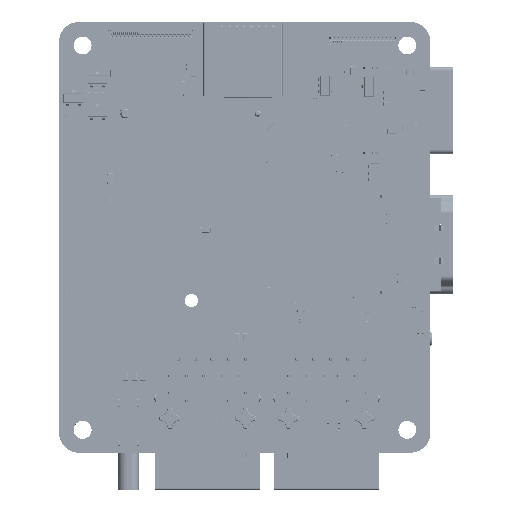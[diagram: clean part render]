
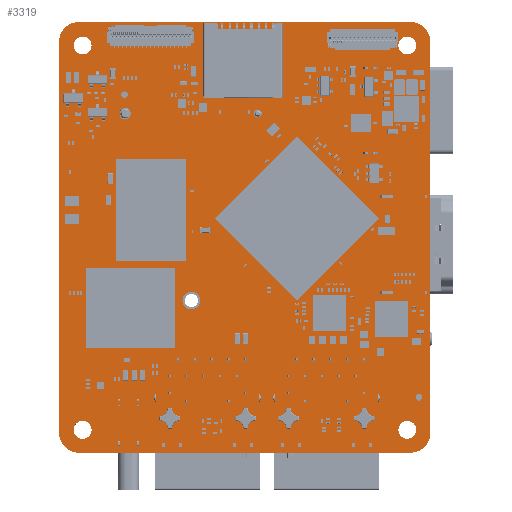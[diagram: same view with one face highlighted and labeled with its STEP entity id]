
A CAD part, top view. The second image highlights one B-rep face of the part: STEP entity #3319.
In plain terms, the highlighted planar face has unit normal (0, 0, 1).
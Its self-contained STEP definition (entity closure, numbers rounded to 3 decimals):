
#1495=CARTESIAN_POINT('',(17.13,-32.372,1.6));
#1496=DIRECTION('',(0.,0.,1.));
#1497=DIRECTION('',(0.,-1.,0.));
#1498=AXIS2_PLACEMENT_3D('',#1495,#1496,#1497);
#1500=DIRECTION('',(1.,0.,0.));
#1501=VECTOR('',#1500,50.043);
#1502=CARTESIAN_POINT('',(-32.913,-35.372,1.6));
#1503=LINE('',#1502,#1501);
#1504=CARTESIAN_POINT('',(-32.913,-32.372,1.6));
#1505=DIRECTION('',(0.,0.,1.));
#1506=DIRECTION('',(-1.,0.,0.));
#1507=AXIS2_PLACEMENT_3D('',#1504,#1505,#1506);
#1509=DIRECTION('',(0.,-1.,0.));
#1510=VECTOR('',#1509,59.);
#1511=CARTESIAN_POINT('',(-35.913,26.628,1.6));
#1512=LINE('',#1511,#1510);
#1513=CARTESIAN_POINT('',(-32.913,26.628,1.6));
#1514=DIRECTION('',(0.,0.,1.));
#1515=DIRECTION('',(0.,1.,0.));
#1516=AXIS2_PLACEMENT_3D('',#1513,#1514,#1515);
#1518=DIRECTION('',(-1.,0.,0.));
#1519=VECTOR('',#1518,50.033);
#1520=CARTESIAN_POINT('',(17.12,29.628,1.6));
#1521=LINE('',#1520,#1519);
#1522=CARTESIAN_POINT('',(17.12,26.628,1.6));
#1523=DIRECTION('',(0.,0.,1.));
#1524=DIRECTION('',(1.,0.,0.));
#1525=AXIS2_PLACEMENT_3D('',#1522,#1523,#1524);
#1527=DIRECTION('',(0.,1.,0.));
#1528=VECTOR('',#1527,48.775);
#1529=CARTESIAN_POINT('',(20.128,-22.147,1.6));
#1530=LINE('',#1529,#1528);
#1531=DIRECTION('',(0.,1.,0.));
#1532=VECTOR('',#1531,4.671);
#1533=CARTESIAN_POINT('',(20.13,-26.818,1.6));
#1534=LINE('',#1533,#1532);
#1535=DIRECTION('',(0.,1.,0.));
#1536=VECTOR('',#1535,5.554);
#1537=CARTESIAN_POINT('',(20.13,-32.372,1.6));
#1538=LINE('',#1537,#1536);
#1539=CARTESIAN_POINT('',(16.649,26.084,1.6));
#1540=DIRECTION('',(0.,0.,-1.));
#1541=DIRECTION('',(-1.,0.,0.));
#1542=AXIS2_PLACEMENT_3D('',#1539,#1540,#1541);
#1544=CARTESIAN_POINT('',(16.649,26.084,1.6));
#1545=DIRECTION('',(0.,0.,-1.));
#1546=DIRECTION('',(1.,0.,0.));
#1547=AXIS2_PLACEMENT_3D('',#1544,#1545,#1546);
#1549=CARTESIAN_POINT('',(-32.351,26.084,1.6));
#1550=DIRECTION('',(0.,0.,-1.));
#1551=DIRECTION('',(-1.,0.,0.));
#1552=AXIS2_PLACEMENT_3D('',#1549,#1550,#1551);
#1554=CARTESIAN_POINT('',(-32.351,26.084,1.6));
#1555=DIRECTION('',(0.,0.,-1.));
#1556=DIRECTION('',(1.,0.,0.));
#1557=AXIS2_PLACEMENT_3D('',#1554,#1555,#1556);
#1559=CARTESIAN_POINT('',(16.649,-31.918,1.6));
#1560=DIRECTION('',(0.,0.,-1.));
#1561=DIRECTION('',(-1.,0.,0.));
#1562=AXIS2_PLACEMENT_3D('',#1559,#1560,#1561);
#1564=CARTESIAN_POINT('',(16.649,-31.918,1.6));
#1565=DIRECTION('',(0.,0.,-1.));
#1566=DIRECTION('',(1.,0.,0.));
#1567=AXIS2_PLACEMENT_3D('',#1564,#1565,#1566);
#1569=CARTESIAN_POINT('',(-32.351,-31.918,1.6));
#1570=DIRECTION('',(0.,0.,-1.));
#1571=DIRECTION('',(-1.,0.,0.));
#1572=AXIS2_PLACEMENT_3D('',#1569,#1570,#1571);
#1574=CARTESIAN_POINT('',(-32.351,-31.918,1.6));
#1575=DIRECTION('',(0.,0.,-1.));
#1576=DIRECTION('',(1.,0.,0.));
#1577=AXIS2_PLACEMENT_3D('',#1574,#1575,#1576);
#1579=CARTESIAN_POINT('',(-5.927,15.809,1.6));
#1580=DIRECTION('',(0.,0.,-1.));
#1581=DIRECTION('',(-1.,0.,0.));
#1582=AXIS2_PLACEMENT_3D('',#1579,#1580,#1581);
#1584=CARTESIAN_POINT('',(-5.927,15.809,1.6));
#1585=DIRECTION('',(0.,0.,-1.));
#1586=DIRECTION('',(1.,0.,0.));
#1587=AXIS2_PLACEMENT_3D('',#1584,#1585,#1586);
#1589=CARTESIAN_POINT('',(-25.927,15.809,1.6));
#1590=DIRECTION('',(0.,0.,-1.));
#1591=DIRECTION('',(-1.,0.,0.));
#1592=AXIS2_PLACEMENT_3D('',#1589,#1590,#1591);
#1594=CARTESIAN_POINT('',(-25.927,15.809,1.6));
#1595=DIRECTION('',(0.,0.,-1.));
#1596=DIRECTION('',(1.,0.,0.));
#1597=AXIS2_PLACEMENT_3D('',#1594,#1595,#1596);
#1599=CARTESIAN_POINT('',(-15.939,-12.403,1.6));
#1600=DIRECTION('',(0.,0.,-1.));
#1601=DIRECTION('',(-1.,0.,0.));
#1602=AXIS2_PLACEMENT_3D('',#1599,#1600,#1601);
#1604=CARTESIAN_POINT('',(-15.939,-12.403,1.6));
#1605=DIRECTION('',(0.,0.,-1.));
#1606=DIRECTION('',(1.,0.,0.));
#1607=AXIS2_PLACEMENT_3D('',#1604,#1605,#1606);
#2509=CARTESIAN_POINT('',(17.13,-35.372,1.6));
#2510=CARTESIAN_POINT('',(20.13,-32.372,1.6));
#2511=VERTEX_POINT('',#2509);
#2512=VERTEX_POINT('',#2510);
#2513=CARTESIAN_POINT('',(20.13,-26.818,1.6));
#2514=VERTEX_POINT('',#2513);
#2515=CARTESIAN_POINT('',(20.128,-22.147,1.6));
#2516=VERTEX_POINT('',#2515);
#2517=CARTESIAN_POINT('',(20.12,26.628,1.6));
#2518=VERTEX_POINT('',#2517);
#2519=CARTESIAN_POINT('',(17.12,29.628,1.6));
#2520=VERTEX_POINT('',#2519);
#2521=CARTESIAN_POINT('',(-32.913,29.628,1.6));
#2522=VERTEX_POINT('',#2521);
#2523=CARTESIAN_POINT('',(-35.913,26.628,1.6));
#2524=VERTEX_POINT('',#2523);
#2525=CARTESIAN_POINT('',(-35.913,-32.372,1.6));
#2526=VERTEX_POINT('',#2525);
#2527=CARTESIAN_POINT('',(-32.913,-35.372,1.6));
#2528=VERTEX_POINT('',#2527);
#2545=CARTESIAN_POINT('',(15.299,26.084,1.6));
#2546=CARTESIAN_POINT('',(17.999,26.084,1.6));
#2547=VERTEX_POINT('',#2545);
#2548=VERTEX_POINT('',#2546);
#2549=CARTESIAN_POINT('',(-33.701,26.084,1.6));
#2550=CARTESIAN_POINT('',(-31.001,26.084,1.6));
#2551=VERTEX_POINT('',#2549);
#2552=VERTEX_POINT('',#2550);
#2553=CARTESIAN_POINT('',(15.299,-31.918,1.6));
#2554=CARTESIAN_POINT('',(17.999,-31.918,1.6));
#2555=VERTEX_POINT('',#2553);
#2556=VERTEX_POINT('',#2554);
#2557=CARTESIAN_POINT('',(-33.701,-31.918,1.6));
#2558=CARTESIAN_POINT('',(-31.001,-31.918,1.6));
#2559=VERTEX_POINT('',#2557);
#2560=VERTEX_POINT('',#2558);
#2569=CARTESIAN_POINT('',(-6.527,15.809,1.6));
#2570=CARTESIAN_POINT('',(-5.327,15.809,1.6));
#2571=VERTEX_POINT('',#2569);
#2572=VERTEX_POINT('',#2570);
#2573=CARTESIAN_POINT('',(-26.777,15.809,1.6));
#2574=CARTESIAN_POINT('',(-25.077,15.809,1.6));
#2575=VERTEX_POINT('',#2573);
#2576=VERTEX_POINT('',#2574);
#2577=CARTESIAN_POINT('',(-17.289,-12.403,1.6));
#2578=CARTESIAN_POINT('',(-14.589,-12.403,1.6));
#2579=VERTEX_POINT('',#2577);
#2580=VERTEX_POINT('',#2578);
#3260=CARTESIAN_POINT('',(0.,0.,1.6));
#3261=DIRECTION('',(0.,0.,1.));
#3262=DIRECTION('',(1.,0.,0.));
#3263=AXIS2_PLACEMENT_3D('',#3260,#3261,#3262);
#3264=PLANE('',#3263);
#3265=ORIENTED_EDGE('',*,*,#3128,.F.);
#3266=ORIENTED_EDGE('',*,*,#3143,.F.);
#3267=ORIENTED_EDGE('',*,*,#3157,.F.);
#3268=ORIENTED_EDGE('',*,*,#3171,.F.);
#3269=ORIENTED_EDGE('',*,*,#3185,.F.);
#3270=ORIENTED_EDGE('',*,*,#3199,.F.);
#3271=ORIENTED_EDGE('',*,*,#3213,.F.);
#3272=ORIENTED_EDGE('',*,*,#3227,.F.);
#3273=ORIENTED_EDGE('',*,*,#3241,.F.);
#3274=ORIENTED_EDGE('',*,*,#3254,.F.);
#3275=EDGE_LOOP('',(#3265,#3266,#3267,#3268,#3269,#3270,#3271,#3272,#3273,
#3274));
#3276=FACE_OUTER_BOUND('',#3275,.F.);
#3278=ORIENTED_EDGE('',*,*,#3277,.F.);
#3280=ORIENTED_EDGE('',*,*,#3279,.F.);
#3281=EDGE_LOOP('',(#3278,#3280));
#3282=FACE_BOUND('',#3281,.F.);
#3284=ORIENTED_EDGE('',*,*,#3283,.F.);
#3286=ORIENTED_EDGE('',*,*,#3285,.F.);
#3287=EDGE_LOOP('',(#3284,#3286));
#3288=FACE_BOUND('',#3287,.F.);
#3290=ORIENTED_EDGE('',*,*,#3289,.F.);
#3292=ORIENTED_EDGE('',*,*,#3291,.F.);
#3293=EDGE_LOOP('',(#3290,#3292));
#3294=FACE_BOUND('',#3293,.F.);
#3296=ORIENTED_EDGE('',*,*,#3295,.F.);
#3298=ORIENTED_EDGE('',*,*,#3297,.F.);
#3299=EDGE_LOOP('',(#3296,#3298));
#3300=FACE_BOUND('',#3299,.F.);
#3302=ORIENTED_EDGE('',*,*,#3301,.F.);
#3304=ORIENTED_EDGE('',*,*,#3303,.F.);
#3305=EDGE_LOOP('',(#3302,#3304));
#3306=FACE_BOUND('',#3305,.F.);
#3308=ORIENTED_EDGE('',*,*,#3307,.F.);
#3310=ORIENTED_EDGE('',*,*,#3309,.F.);
#3311=EDGE_LOOP('',(#3308,#3310));
#3312=FACE_BOUND('',#3311,.F.);
#3314=ORIENTED_EDGE('',*,*,#3313,.F.);
#3316=ORIENTED_EDGE('',*,*,#3315,.F.);
#3317=EDGE_LOOP('',(#3314,#3316));
#3318=FACE_BOUND('',#3317,.F.);
#1499=CIRCLE('',#1498,3.);
#1508=CIRCLE('',#1507,3.);
#1517=CIRCLE('',#1516,3.);
#1526=CIRCLE('',#1525,3.);
#1543=CIRCLE('',#1542,1.35);
#1548=CIRCLE('',#1547,1.35);
#1553=CIRCLE('',#1552,1.35);
#1558=CIRCLE('',#1557,1.35);
#1563=CIRCLE('',#1562,1.35);
#1568=CIRCLE('',#1567,1.35);
#1573=CIRCLE('',#1572,1.35);
#1578=CIRCLE('',#1577,1.35);
#1583=CIRCLE('',#1582,0.6);
#1588=CIRCLE('',#1587,0.6);
#1593=CIRCLE('',#1592,0.85);
#1598=CIRCLE('',#1597,0.85);
#1603=CIRCLE('',#1602,1.35);
#1608=CIRCLE('',#1607,1.35);
#3128=EDGE_CURVE('',#2511,#2512,#1499,.T.);
#3143=EDGE_CURVE('',#2528,#2511,#1503,.T.);
#3157=EDGE_CURVE('',#2526,#2528,#1508,.T.);
#3171=EDGE_CURVE('',#2524,#2526,#1512,.T.);
#3185=EDGE_CURVE('',#2522,#2524,#1517,.T.);
#3199=EDGE_CURVE('',#2520,#2522,#1521,.T.);
#3213=EDGE_CURVE('',#2518,#2520,#1526,.T.);
#3227=EDGE_CURVE('',#2516,#2518,#1530,.T.);
#3241=EDGE_CURVE('',#2514,#2516,#1534,.T.);
#3254=EDGE_CURVE('',#2512,#2514,#1538,.T.);
#3277=EDGE_CURVE('',#2547,#2548,#1543,.T.);
#3279=EDGE_CURVE('',#2548,#2547,#1548,.T.);
#3283=EDGE_CURVE('',#2551,#2552,#1553,.T.);
#3285=EDGE_CURVE('',#2552,#2551,#1558,.T.);
#3289=EDGE_CURVE('',#2555,#2556,#1563,.T.);
#3291=EDGE_CURVE('',#2556,#2555,#1568,.T.);
#3295=EDGE_CURVE('',#2559,#2560,#1573,.T.);
#3297=EDGE_CURVE('',#2560,#2559,#1578,.T.);
#3301=EDGE_CURVE('',#2571,#2572,#1583,.T.);
#3303=EDGE_CURVE('',#2572,#2571,#1588,.T.);
#3307=EDGE_CURVE('',#2575,#2576,#1593,.T.);
#3309=EDGE_CURVE('',#2576,#2575,#1598,.T.);
#3313=EDGE_CURVE('',#2579,#2580,#1603,.T.);
#3315=EDGE_CURVE('',#2580,#2579,#1608,.T.);
#3319=ADVANCED_FACE('',(#3276,#3282,#3288,#3294,#3300,#3306,#3312,#3318),#3264,
.T.);
